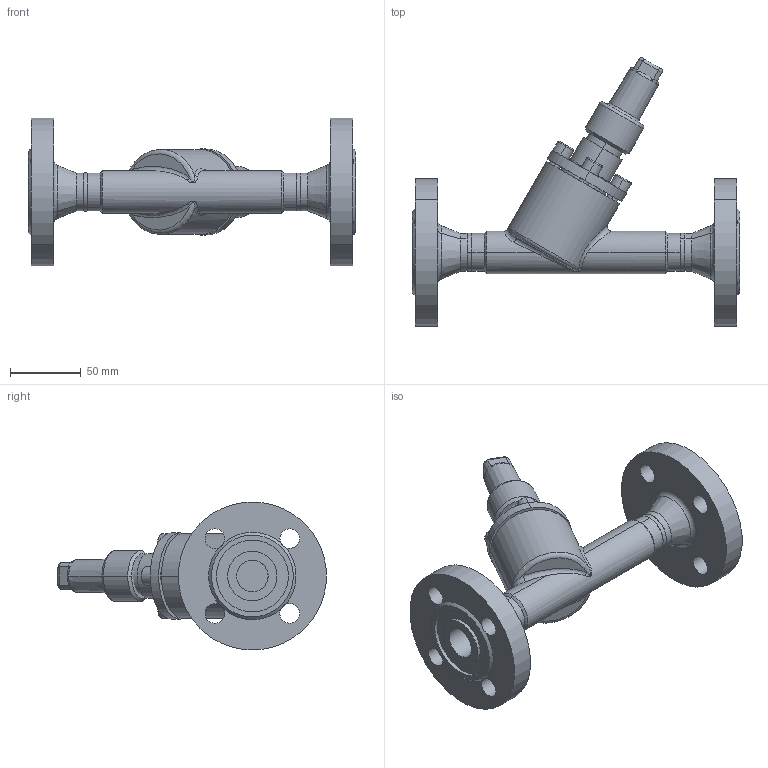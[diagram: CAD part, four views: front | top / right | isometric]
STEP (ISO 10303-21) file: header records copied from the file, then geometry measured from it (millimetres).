
FILE_DESCRIPTION (( 'STEP AP214' ), '1' );
FILE_NAME ('HRAB12320D11-DN020_DIN-FL-N_PS40.STEP', '2006-04-27T11:58:50', ( 'Herr Grams' ), ( 'AWP GmbH' ), 'SwSTEP 2.0', 'SolidWorks 2002296', '' );
FILE_SCHEMA (( 'AUTOMOTIVE_DESIGN' ));
Length unit declared in the file: millimetre
Products named in the file (10): HRAB12320D11-DN020_DIN-FL-N_PS40; Gehäuse-kpl16320-DN020_DIN_PS40_Standard; Gehäuse16300-DN020_Standard; Flansch-DIN2635-Nut_PS40_DIN-Flansch-DN020_PS40-Nut; bead16320-DN020-2_Standard; bead16320-DN020-1_Standard; AVB16300K10_Deck+Schr-DN10-20_Standard; Deckel16300K10-DN10-20_Standard; Zylinderschraube-DIN912_M 8x 16; Kappe96300E10_DN6-20_Standard
Assembly tree (13 placements, depth 3):
  HRAB12320D11-DN020_DIN-FL-N_PS40
    Kappe96300E10_DN6-20_Standard
    Gehäuse-kpl16320-DN020_DIN_PS40_Standard
      Flansch-DIN2635-Nut_PS40_DIN-Flansch-DN020_PS40-Nut  x2
      bead16320-DN020-2_Standard
      Gehäuse16300-DN020_Standard
      bead16320-DN020-1_Standard
    AVB16300K10_Deck+Schr-DN10-20_Standard
      Zylinderschraube-DIN912_M 8x 16  x4
      Deckel16300K10-DN10-20_Standard
Bounding box: 232 x 190.12 x 104.6 mm (x, y, z)
Volume: 534584.5 mm3; surface area: 123014.5 mm2
Topology: 11 solids, 11 shells, 297 faces, 671 edges, 420 vertices
Faces by surface type: cylinder 119, plane 89, cone 46, torus 29, bspline 14
Entity records: 21611 total; most frequent: CARTESIAN_POINT 16114, DIRECTION 1066, ORIENTED_EDGE 950, EDGE_CURVE 475, AXIS2_PLACEMENT_3D 456, VERTEX_POINT 296, EDGE_LOOP 251, CIRCLE 241
